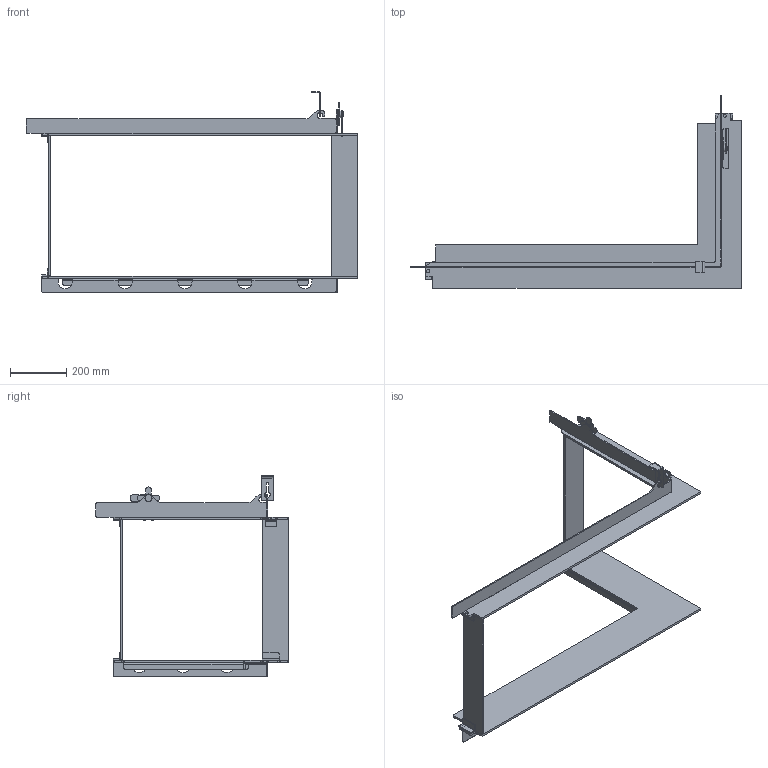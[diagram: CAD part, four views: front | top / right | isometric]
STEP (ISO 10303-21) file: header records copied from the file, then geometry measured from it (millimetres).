
FILE_DESCRIPTION(/* description */ (''),/* implementation_level */ '2;1');
FILE_NAME(/* name */ 'C:\Users\jku\Desktop\3D\Rechts_einbaurahmen.stp',/* time_stamp */ '2019-06-05T09:18:50+02:00',/* author */ ('jku'),/* organization */ (''),/* preprocessor_version */ 'ST-DEVELOPER v17.2',/* originating_system */ 'Autodesk Inventor 2019',/* authorisation */ '');
FILE_SCHEMA (('AUTOMOTIVE_DESIGN { 1 0 10303 214 3 1 1 }'));
Length unit declared in the file: millimetre
Products named in the file (1): 2019-01764
Bounding box: 1174.9 x 682.5 x 712 mm (x, y, z)
Volume: 5059134.8 mm3; surface area: 1688112.2 mm2
Topology: 21 solids, 21 shells, 508 faces, 1340 edges, 858 vertices
Faces by surface type: plane 275, cylinder 215, bspline 14, cone 4
Full cylindrical faces by diameter (mm): 10 x1, 10.21 x2, 16 x1, 20 x2, 25 x2
Entity records: 16089 total; most frequent: CARTESIAN_POINT 3001, DIRECTION 2740, ORIENTED_EDGE 2680, EDGE_CURVE 1340, AXIS2_PLACEMENT_3D 933, LINE 874, VECTOR 874, VERTEX_POINT 858
